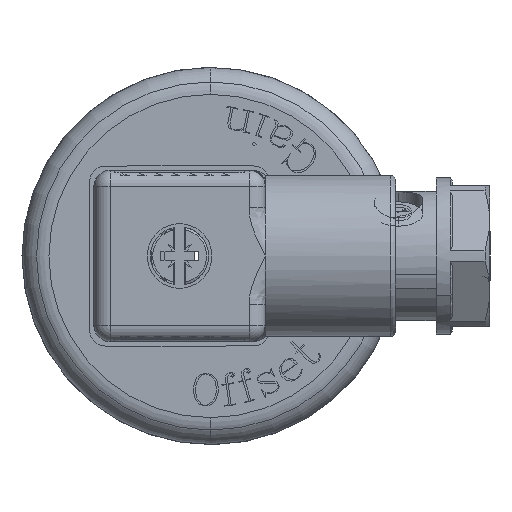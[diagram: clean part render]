
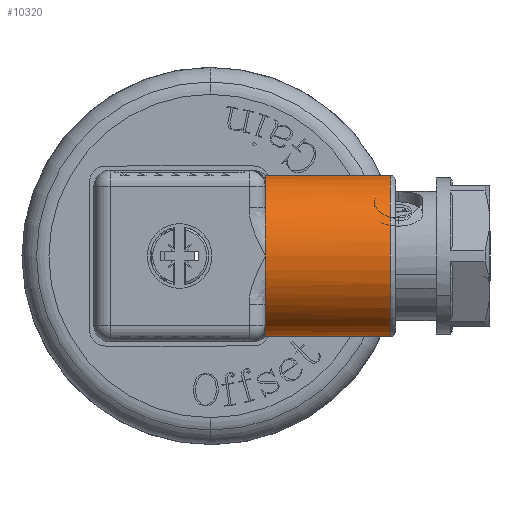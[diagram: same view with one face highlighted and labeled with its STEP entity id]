
A CAD part, left-side view. The second image highlights one B-rep face of the part: STEP entity #10320.
In plain terms, the highlighted cylindrical face has radius 7.5 mm (diameter 15 mm), a partial arc.
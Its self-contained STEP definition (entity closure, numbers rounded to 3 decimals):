
#205 = EDGE_CURVE ( 'NONE', #8795, #17693, #6069, .T. ) ;
#602 = CARTESIAN_POINT ( 'NONE',  ( -70.75, -5.07, 0. ) ) ;
#949 = CARTESIAN_POINT ( 'NONE',  ( -63.25, -5.07, 0. ) ) ;
#1100 = DIRECTION ( 'NONE',  ( 0., 0., 1. ) ) ;
#1366 = B_SPLINE_CURVE_WITH_KNOTS ( 'NONE', 3,
 ( #13868, #9354, #10817, #8163, #7891, #5055 ),
 .UNSPECIFIED., .F., .F.,
 ( 4, 2, 4 ),
 ( 0.5, 0.75, 1. ),
 .UNSPECIFIED. ) ;
#1649 = EDGE_CURVE ( 'NONE', #12626, #8795, #1366, .T. ) ;
#1737 = AXIS2_PLACEMENT_3D ( 'NONE', #16543, #9092, #1881 ) ;
#1881 = DIRECTION ( 'NONE',  ( 0., 0., 1. ) ) ;
#1908 = VERTEX_POINT ( 'NONE', #13462 ) ;
#2162 = CARTESIAN_POINT ( 'NONE',  ( -63.25, -5.07, -7.5 ) ) ;
#2310 = CARTESIAN_POINT ( 'NONE',  ( -63.25, -5.07, -7.5 ) ) ;
#3024 = ORIENTED_EDGE ( 'NONE', *, *, #11505, .T. ) ;
#3369 = CARTESIAN_POINT ( 'NONE',  ( -70.75, -5.07, 0. ) ) ;
#3438 = CARTESIAN_POINT ( 'NONE',  ( -63.25, -5.07, 7.5 ) ) ;
#3517 = CIRCLE ( 'NONE', #14414, 7.5 ) ;
#3539 = CARTESIAN_POINT ( 'NONE',  ( -67.077, -5.07, -6.45 ) ) ;
#3568 = DIRECTION ( 'NONE',  ( 0., 1., 0. ) ) ;
#4994 = CARTESIAN_POINT ( 'NONE',  ( -67.077, -5.07, -6.45 ) ) ;
#5055 = CARTESIAN_POINT ( 'NONE',  ( -67.077, -5.07, 6.45 ) ) ;
#5193 = CARTESIAN_POINT ( 'NONE',  ( -70.75, -5.07, 0. ) ) ;
#5603 = AXIS2_PLACEMENT_3D ( 'NONE', #16939, #3568, #1100 ) ;
#5851 = DIRECTION ( 'NONE',  ( 0., -1., 0. ) ) ;
#6069 = CIRCLE ( 'NONE', #1737, 7.5 ) ;
#6171 = DIRECTION ( 'NONE',  ( 0., -1., 0. ) ) ;
#6370 = CARTESIAN_POINT ( 'NONE',  ( -70.619, -5.07, -1.609 ) ) ;
#6519 = DIRECTION ( 'NONE',  ( 0., -1., 0. ) ) ;
#7017 = ORIENTED_EDGE ( 'NONE', *, *, #14497, .F. ) ;
#7174 = AXIS2_PLACEMENT_3D ( 'NONE', #10770, #6171, #18495 ) ;
#7367 = EDGE_CURVE ( 'NONE', #17693, #12813, #9449, .T. ) ;
#7775 = CARTESIAN_POINT ( 'NONE',  ( -63.25, -16.67, 7.5 ) ) ;
#7788 = CARTESIAN_POINT ( 'NONE',  ( -63.25, -5.07, -7.5 ) ) ;
#7804 = LINE ( 'NONE', #3438, #11164 ) ;
#7891 = CARTESIAN_POINT ( 'NONE',  ( -66.502, -5.07, 6.792 ) ) ;
#7986 = CARTESIAN_POINT ( 'NONE',  ( -70.111, -5.07, 3.135 ) ) ;
#8004 = CARTESIAN_POINT ( 'NONE',  ( -64.589, -5.07, -7.41 ) ) ;
#8163 = CARTESIAN_POINT ( 'NONE',  ( -65.88, -5.07, 7.056 ) ) ;
#8393 = VERTEX_POINT ( 'NONE', #7775 ) ;
#8425 = VERTEX_POINT ( 'NONE', #9446 ) ;
#8486 = ORIENTED_EDGE ( 'NONE', *, *, #10532, .T. ) ;
#8741 = CARTESIAN_POINT ( 'NONE',  ( -63.25, -5.07, 7.5 ) ) ;
#8795 = VERTEX_POINT ( 'NONE', #15404 ) ;
#8912 = ORIENTED_EDGE ( 'NONE', *, *, #205, .T. ) ;
#9092 = DIRECTION ( 'NONE',  ( 0., -1., 0. ) ) ;
#9155 = VERTEX_POINT ( 'NONE', #3539 ) ;
#9296 = CARTESIAN_POINT ( 'NONE',  ( -70.75, -5.07, -0.804 ) ) ;
#9354 = CARTESIAN_POINT ( 'NONE',  ( -63.919, -5.07, 7.5 ) ) ;
#9372 = B_SPLINE_CURVE_WITH_KNOTS ( 'NONE', 3,
 ( #4994, #14074, #10846, #8004, #12434, #2162 ),
 .UNSPECIFIED., .F., .F.,
 ( 4, 2, 4 ),
 ( 0., 0.25, 0.5 ),
 .UNSPECIFIED. ) ;
#9375 = CIRCLE ( 'NONE', #5603, 7.5 ) ;
#9446 = CARTESIAN_POINT ( 'NONE',  ( -69.25, -5.07, -4.5 ) ) ;
#9449 = B_SPLINE_CURVE_WITH_KNOTS ( 'NONE', 3,
 ( #10927, #9471, #7986, #13962, #13599, #602 ),
 .UNSPECIFIED., .F., .F.,
 ( 4, 2, 4 ),
 ( 0., 0.5, 1. ),
 .UNSPECIFIED. ) ;
#9471 = CARTESIAN_POINT ( 'NONE',  ( -69.733, -5.07, 3.856 ) ) ;
#9500 = VERTEX_POINT ( 'NONE', #2310 ) ;
#10070 = CARTESIAN_POINT ( 'NONE',  ( -70.111, -5.07, -3.135 ) ) ;
#10320 = ADVANCED_FACE ( 'NONE', ( #10854 ), #13818, .T. ) ;
#10532 = EDGE_CURVE ( 'NONE', #9500, #1908, #18170, .T. ) ;
#10689 = EDGE_LOOP ( 'NONE', ( #18311, #8486, #15460, #7017, #12453, #8912, #15487, #10732, #3024 ) ) ;
#10732 = ORIENTED_EDGE ( 'NONE', *, *, #16941, .T. ) ;
#10770 = CARTESIAN_POINT ( 'NONE',  ( -63.25, -5.07, 0. ) ) ;
#10817 = CARTESIAN_POINT ( 'NONE',  ( -64.589, -5.07, 7.41 ) ) ;
#10846 = CARTESIAN_POINT ( 'NONE',  ( -65.88, -5.07, -7.056 ) ) ;
#10854 = FACE_OUTER_BOUND ( 'NONE', #10689, .T. ) ;
#10927 = CARTESIAN_POINT ( 'NONE',  ( -69.25, -5.07, 4.5 ) ) ;
#11164 = VECTOR ( 'NONE', #6519, 1000. ) ;
#11258 = CARTESIAN_POINT ( 'NONE',  ( -69.25, -5.07, 4.5 ) ) ;
#11299 = EDGE_CURVE ( 'NONE', #9155, #9500, #9372, .T. ) ;
#11426 = CARTESIAN_POINT ( 'NONE',  ( -69.25, -5.07, -4.5 ) ) ;
#11505 = EDGE_CURVE ( 'NONE', #8425, #9155, #3517, .T. ) ;
#12434 = CARTESIAN_POINT ( 'NONE',  ( -63.919, -5.07, -7.5 ) ) ;
#12453 = ORIENTED_EDGE ( 'NONE', *, *, #1649, .T. ) ;
#12571 = B_SPLINE_CURVE_WITH_KNOTS ( 'NONE', 3,
 ( #3369, #9296, #6370, #10070, #19063, #11426 ),
 .UNSPECIFIED., .F., .F.,
 ( 4, 2, 4 ),
 ( 0., 0.5, 1. ),
 .UNSPECIFIED. ) ;
#12626 = VERTEX_POINT ( 'NONE', #8741 ) ;
#12749 = DIRECTION ( 'NONE',  ( 0., -1., 0. ) ) ;
#12813 = VERTEX_POINT ( 'NONE', #5193 ) ;
#12941 = DIRECTION ( 'NONE',  ( 0., 0., 1. ) ) ;
#13462 = CARTESIAN_POINT ( 'NONE',  ( -63.25, -16.67, -7.5 ) ) ;
#13599 = CARTESIAN_POINT ( 'NONE',  ( -70.75, -5.07, 0.804 ) ) ;
#13818 = CYLINDRICAL_SURFACE ( 'NONE', #7174, 7.5 ) ;
#13868 = CARTESIAN_POINT ( 'NONE',  ( -63.25, -5.07, 7.5 ) ) ;
#13962 = CARTESIAN_POINT ( 'NONE',  ( -70.619, -5.07, 1.609 ) ) ;
#14074 = CARTESIAN_POINT ( 'NONE',  ( -66.502, -5.07, -6.792 ) ) ;
#14414 = AXIS2_PLACEMENT_3D ( 'NONE', #949, #12749, #12941 ) ;
#14497 = EDGE_CURVE ( 'NONE', #12626, #8393, #7804, .T. ) ;
#15404 = CARTESIAN_POINT ( 'NONE',  ( -67.077, -5.07, 6.45 ) ) ;
#15460 = ORIENTED_EDGE ( 'NONE', *, *, #18121, .T. ) ;
#15487 = ORIENTED_EDGE ( 'NONE', *, *, #7367, .T. ) ;
#16543 = CARTESIAN_POINT ( 'NONE',  ( -63.25, -5.07, 0. ) ) ;
#16939 = CARTESIAN_POINT ( 'NONE',  ( -63.25, -16.67, 0. ) ) ;
#16941 = EDGE_CURVE ( 'NONE', #12813, #8425, #12571, .T. ) ;
#17693 = VERTEX_POINT ( 'NONE', #11258 ) ;
#18121 = EDGE_CURVE ( 'NONE', #1908, #8393, #9375, .T. ) ;
#18170 = LINE ( 'NONE', #7788, #19068 ) ;
#18311 = ORIENTED_EDGE ( 'NONE', *, *, #11299, .T. ) ;
#18495 = DIRECTION ( 'NONE',  ( 0., 0., 1. ) ) ;
#19063 = CARTESIAN_POINT ( 'NONE',  ( -69.733, -5.07, -3.856 ) ) ;
#19068 = VECTOR ( 'NONE', #5851, 1000. ) ;
